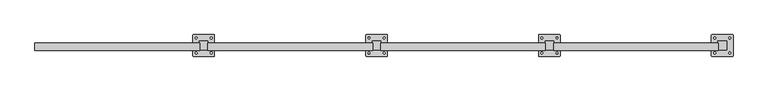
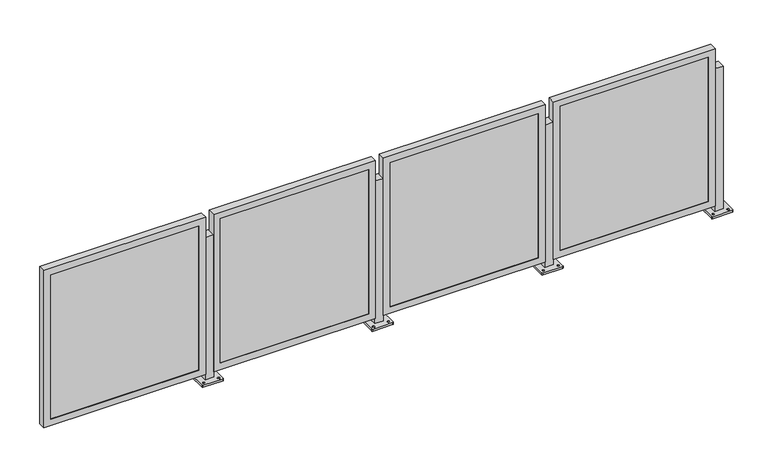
"""IFC4 building model written with IfcOpenShell, lengths in millimetres: railing geometry, Railing - Amico Architectural - Perforated Railing - Bilbao."""

from ifc_helpers import new_model, si_unit, frame, origin, place, context, project, spatial, polyline, circle_curve, outline, extrude, faceted_brep, source, transform, mapped, element, save
from ifc_brep_helpers import plane_surface, cylinder_surface, revolved_surface, advanced_brep


def railing_f1457b38(model_context):
    return source(origin(), model_context, "Body", "SolidModel", [
        advanced_brep(
        [(-3181.6608616, -3820.6813531, 914.4), (-3181.6608616, -3871.4813531, 914.4), (-3130.8608616, -3871.4813531, 914.4), (-3130.8608616, -3820.6813531, 914.4), (-3219.7608618, -3906.4063121, 0.0), (-3219.7608618, -3785.7563942, 0.0), (-3216.5858336, -3782.581366, 0.0), (-3095.9358896, -3782.581366, 0.0), (-3092.7608615, -3785.7563942, 0.0), (-3092.7608615, -3906.4063121, 0.0), (-3095.9358896, -3909.5813403, 0.0), (-3216.5858336, -3909.5813403, 0.0), (-3200.7108492, -3896.0876078, 0.0), (-3200.7108492, -3884.9750953, 0.0), (-3200.7108601, -3807.1876034, 0.0), (-3200.7108601, -3796.0751218, 0.0), (-3111.8108482, -3896.0876063, 0.0), (-3111.8108482, -3884.9750956, 0.0), (-3111.8108591, -3807.1876019, 0.0), (-3111.8108591, -3796.0751221, 0.0), (-3181.6608616, -3820.6813531, 12.7), (-3181.6608616, -3871.4813531, 12.7), (-3130.8608616, -3871.4813531, 12.7), (-3130.8608616, -3820.6813531, 12.7), (-3219.7608618, -3906.4063121, 12.7), (-3216.5858336, -3909.5813403, 12.7), (-3095.9358896, -3909.5813403, 12.7), (-3092.7608615, -3906.4063121, 12.7), (-3092.7608615, -3785.7563942, 12.7), (-3095.9358896, -3782.581366, 12.7), (-3216.5858336, -3782.581366, 12.7), (-3219.7608618, -3785.7563942, 12.7), (-3200.7108492, -3896.0876078, 12.7), (-3200.7108492, -3884.9750953, 12.7), (-3200.7108601, -3807.1876034, 12.7), (-3200.7108601, -3796.0751218, 12.7), (-3111.8108482, -3896.0876063, 12.7), (-3111.8108482, -3884.9750956, 12.7), (-3111.8108591, -3807.1876019, 12.7), (-3111.8108591, -3796.0751221, 12.7)],
        [
            (0, 1),
            (1, 2),
            (2, 3),
            (3, 0),
            (4, 5),
            (5, 6, circle_curve(frame((-3216.5858336, -3785.7563942, 0.0), z_axis=(0.0, 0.0, -1.0), x_axis=(0.0, 1.0, 0.0)), 3.1750282)),
            (6, 7),
            (7, 8, circle_curve(frame((-3095.9358896, -3785.7563942, 0.0), z_axis=(0.0, 0.0, -1.0), x_axis=(0.0, 1.0, 0.0)), 3.1750282)),
            (8, 9),
            (9, 10, circle_curve(frame((-3095.9358896, -3906.4063121, 0.0), z_axis=(0.0, 0.0, -1.0), x_axis=(0.0, 1.0, 0.0)), 3.1750282)),
            (10, 11),
            (11, 4, circle_curve(frame((-3216.5858336, -3906.4063121, 0.0), z_axis=(0.0, 0.0, -1.0), x_axis=(0.0, 1.0, 0.0)), 3.1750282)),
            (12, 13, circle_curve(frame((-3200.7108492, -3890.5313516, 0.0), z_axis=(0.0, 0.0, 1.0), x_axis=(0.0, 1.0, 0.0)), 5.5562562)),
            (13, 12, circle_curve(frame((-3200.7108492, -3890.5313516, 0.0), z_axis=(0.0, 0.0, 1.0), x_axis=(0.0, 1.0, 0.0)), 5.5562562)),
            (14, 15, circle_curve(frame((-3200.7108601, -3801.6313626, 0.0), z_axis=(0.0, 0.0, 1.0), x_axis=(0.0, 1.0, 0.0)), 5.5562408)),
            (15, 14, circle_curve(frame((-3200.7108601, -3801.6313626, 0.0), z_axis=(0.0, 0.0, 1.0), x_axis=(0.0, 1.0, 0.0)), 5.5562408)),
            (16, 17, circle_curve(frame((-3111.8108482, -3890.5313509, 0.0), z_axis=(0.0, 0.0, 1.0), x_axis=(0.0, 1.0, 0.0)), 5.5562553)),
            (17, 16, circle_curve(frame((-3111.8108482, -3890.5313509, 0.0), z_axis=(0.0, 0.0, 1.0), x_axis=(0.0, 1.0, 0.0)), 5.5562553)),
            (18, 19, circle_curve(frame((-3111.8108591, -3801.631362, 0.0), z_axis=(0.0, 0.0, 1.0), x_axis=(0.0, 1.0, 0.0)), 5.5562399)),
            (19, 18, circle_curve(frame((-3111.8108591, -3801.631362, 0.0), z_axis=(0.0, 0.0, 1.0), x_axis=(0.0, 1.0, 0.0)), 5.5562399)),
            (0, 20),
            (20, 21),
            (21, 1),
            (21, 22),
            (22, 2),
            (22, 23),
            (23, 3),
            (23, 20),
            (24, 25, circle_curve(frame((-3216.5858336, -3906.4063121, 12.7), z_axis=(0.0, 0.0, 1.0), x_axis=(0.0, 1.0, 0.0)), 3.1750282)),
            (25, 26),
            (26, 27, circle_curve(frame((-3095.9358896, -3906.4063121, 12.7), z_axis=(0.0, 0.0, 1.0), x_axis=(0.0, 1.0, 0.0)), 3.1750282)),
            (27, 28),
            (28, 29, circle_curve(frame((-3095.9358896, -3785.7563942, 12.7), z_axis=(0.0, 0.0, 1.0), x_axis=(0.0, 1.0, 0.0)), 3.1750282)),
            (29, 30),
            (30, 31, circle_curve(frame((-3216.5858336, -3785.7563942, 12.7), z_axis=(0.0, 0.0, 1.0), x_axis=(0.0, 1.0, 0.0)), 3.1750282)),
            (31, 24),
            (32, 33, circle_curve(frame((-3200.7108492, -3890.5313516, 12.7), z_axis=(0.0, 0.0, -1.0), x_axis=(0.0, 1.0, 0.0)), 5.5562562)),
            (33, 32, circle_curve(frame((-3200.7108492, -3890.5313516, 12.7), z_axis=(0.0, 0.0, -1.0), x_axis=(0.0, 1.0, 0.0)), 5.5562562)),
            (34, 35, circle_curve(frame((-3200.7108601, -3801.6313626, 12.7), z_axis=(0.0, 0.0, -1.0), x_axis=(0.0, 1.0, 0.0)), 5.5562408)),
            (35, 34, circle_curve(frame((-3200.7108601, -3801.6313626, 12.7), z_axis=(0.0, 0.0, -1.0), x_axis=(0.0, 1.0, 0.0)), 5.5562408)),
            (36, 37, circle_curve(frame((-3111.8108482, -3890.5313509, 12.7), z_axis=(0.0, 0.0, -1.0), x_axis=(0.0, 1.0, 0.0)), 5.5562553)),
            (37, 36, circle_curve(frame((-3111.8108482, -3890.5313509, 12.7), z_axis=(0.0, 0.0, -1.0), x_axis=(0.0, 1.0, 0.0)), 5.5562553)),
            (38, 39, circle_curve(frame((-3111.8108591, -3801.631362, 12.7), z_axis=(0.0, 0.0, -1.0), x_axis=(0.0, 1.0, 0.0)), 5.5562399)),
            (39, 38, circle_curve(frame((-3111.8108591, -3801.631362, 12.7), z_axis=(0.0, 0.0, -1.0), x_axis=(0.0, 1.0, 0.0)), 5.5562399)),
            (24, 4),
            (11, 25),
            (10, 26),
            (9, 27),
            (8, 28),
            (7, 29),
            (6, 30),
            (5, 31),
            (32, 12),
            (13, 33),
            (34, 14),
            (15, 35),
            (36, 16),
            (17, 37),
            (38, 18),
            (19, 39),
        ],
        [
            plane_surface(frame((-3181.6608616, -3871.4813531, 914.4), z_axis=(0.0, 0.0, 1.0), x_axis=(0.0, -1.0, 0.0))),
            plane_surface(frame((-3181.6608616, -3871.4813531, 0.0), z_axis=(0.0, 0.0, -1.0), x_axis=(0.0, 1.0, 0.0))),
            plane_surface(frame((-3181.6608616, -3820.6813531, 914.4), z_axis=(-1.0, 0.0, 0.0), x_axis=(0.0, 0.0, -1.0))),
            plane_surface(frame((-3181.6608616, -3871.4813531, 914.4), z_axis=(0.0, -1.0, 0.0), x_axis=(0.0, 0.0, -1.0))),
            plane_surface(frame((-3130.8608616, -3871.4813531, 914.4), z_axis=(1.0, 0.0, 0.0), x_axis=(0.0, 0.0, -1.0))),
            plane_surface(frame((-3130.8608616, -3820.6813531, 914.4), z_axis=(0.0, 1.0, 0.0), x_axis=(0.0, 0.0, -1.0))),
            plane_surface(frame((-3216.5858336, -3903.231284, 12.7), z_axis=(0.0, 0.0, 1.0), x_axis=(-1.0, 0.0, 0.0))),
            cylinder_surface(frame((-3216.5858336, -3906.4063121, 0.0), z_axis=(0.0, 0.0, 1.0), x_axis=(0.0, 1.0, 0.0)), 3.1750282),
            plane_surface(frame((-3216.5858336, -3909.5813403, 12.7), z_axis=(1.1945386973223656e-12, -1.0, 0.0), x_axis=(0.0, 0.0, -1.0))),
            cylinder_surface(frame((-3095.9358896, -3906.4063121, 0.0), z_axis=(0.0, 0.0, 1.0), x_axis=(0.0, 1.0, 0.0)), 3.1750282),
            plane_surface(frame((-3092.7608615, -3906.4063121, 12.7), z_axis=(1.0, 0.0, 0.0), x_axis=(0.0, 0.0, -1.0))),
            cylinder_surface(frame((-3095.9358896, -3785.7563942, 0.0), z_axis=(0.0, 0.0, 1.0), x_axis=(0.0, 1.0, 0.0)), 3.1750282),
            plane_surface(frame((-3095.9358896, -3782.581366, 12.7), z_axis=(-1.1946088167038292e-12, 1.0, 0.0), x_axis=(0.0, 0.0, -1.0))),
            cylinder_surface(frame((-3216.5858336, -3785.7563942, 0.0), z_axis=(0.0, 0.0, 1.0), x_axis=(0.0, 1.0, 0.0)), 3.1750282),
            plane_surface(frame((-3219.7608618, -3785.7563942, 12.7), z_axis=(-1.0, 0.0, 0.0), x_axis=(0.0, 0.0, -1.0))),
            revolved_surface(polyline([(-3200.7108492, -3884.9750954, 0.0), (-3200.7108492, -3884.9750954, 12.7)]), (-3200.7108492, -3890.5313516, 0.0), (0.0, 0.0, -1.0)),
            revolved_surface(polyline([(-3200.7108601, -3796.0751218, 0.0), (-3200.7108601, -3796.0751218, 12.7)]), (-3200.7108601, -3801.6313626, 0.0), (0.0, 0.0, -1.0)),
            revolved_surface(polyline([(-3111.8108482, -3884.9750956, 0.0), (-3111.8108482, -3884.9750956, 12.7)]), (-3111.8108482, -3890.5313509, 0.0), (0.0, 0.0, -1.0)),
            revolved_surface(polyline([(-3111.8108591, -3796.0751221, 0.0), (-3111.8108591, -3796.0751221, 12.7)]), (-3111.8108591, -3801.631362, 0.0), (0.0, 0.0, -1.0)),
        ],
        [
            (0, [[1, 2, 3, 4]]),
            (1, [[5, 6, 7, 8, 9, 10, 11, 12], [13, 14], [15, 16], [17, 18], [19, 20]]),
            (2, [[-1, 21, 22, 23]]),
            (3, [[-2, -23, 24, 25]]),
            (4, [[-3, -25, 26, 27]]),
            (5, [[-4, -27, 28, -21]]),
            (6, [[29, 30, 31, 32, 33, 34, 35, 36], [-22, -28, -26, -24], [37, 38], [39, 40], [41, 42], [43, 44]]),
            (7, [[-29, 45, -12, 46]]),
            (8, [[-30, -46, -11, 47]]),
            (9, [[-31, -47, -10, 48]]),
            (10, [[-32, -48, -9, 49]]),
            (11, [[-33, -49, -8, 50]]),
            (12, [[-34, -50, -7, 51]]),
            (13, [[-35, -51, -6, 52]]),
            (14, [[-36, -52, -5, -45]]),
            (15, [[-37, 53, -14, 54]]),
            (15, [[-38, -54, -13, -53]]),
            (16, [[-39, 55, -16, 56]]),
            (16, [[-40, -56, -15, -55]]),
            (17, [[-41, 57, -18, 58]]),
            (17, [[-42, -58, -17, -57]]),
            (18, [[-43, 59, -20, 60]]),
            (18, [[-44, -60, -19, -59]]),
        ],
    ),
        faceted_brep([(-4148.065315, -3874.2245531, 47.625), (-3179.690315, -3874.2245531, 47.625), (-3179.690315, -3874.2245531, 1044.575), (-4148.065315, -3874.2245531, 1044.575), (-4106.790315, -3874.2245531, 1003.3), (-3220.965315, -3874.2245531, 1003.3), (-3220.965315, -3874.2245531, 88.9), (-4106.790315, -3874.2245531, 88.9), (-4106.790315, -3871.4813531, 1003.3), (-4106.790315, -3871.4813531, 88.9), (-4148.065315, -3830.3512566, 1044.575), (-4148.065315, -3830.3512566, 47.625), (-4144.890315, -3830.3512566, 1041.4), (-4144.890315, -3871.4813531, 1041.4), (-4144.890315, -3871.4813531, 50.8), (-4144.890315, -3830.3512566, 50.8), (-3220.965315, -3871.4813531, 88.9), (-3179.690315, -3830.3512566, 47.625), (-3182.865315, -3871.4813531, 50.8), (-3182.865315, -3830.3512566, 50.8), (-3220.965315, -3871.4813531, 1003.3), (-3179.690315, -3830.3512566, 1044.575), (-3182.865315, -3871.4813531, 1041.4), (-3182.865315, -3830.3512566, 1041.4)], [[[0, 1, 2, 3], [4, 5, 6, 7]], [[8, 4, 7, 9]], [[3, 10, 11, 0]], [[12, 13, 14, 15]], [[9, 7, 6, 16]], [[0, 11, 17, 1]], [[15, 14, 18, 19]], [[16, 6, 5, 20]], [[1, 17, 21, 2]], [[19, 18, 22, 23]], [[20, 5, 4, 8]], [[10, 21, 17, 11], [15, 19, 23, 12]], [[2, 21, 10, 3]], [[13, 22, 18, 14], [9, 16, 20, 8]], [[23, 22, 13, 12]]]),
        extrude(outline(polyline([(-4144.890315, -3861.9563531), (-3182.865315, -3861.9563531), (-3182.865315, -3871.4813531), (-4144.890315, -3871.4813531), (-4144.890315, -3861.9563531)])), frame((0.0, 0.0, 50.8), z_axis=(0.0, 0.0, 1.0), x_axis=(1.0, 0.0, 0.0)), (0.0, 0.0, 1.0), 990.6),
        advanced_brep(
        [(-4197.6608616, -3820.6813531, 914.4), (-4197.6608616, -3871.4813531, 914.4), (-4146.8608616, -3871.4813531, 914.4), (-4146.8608616, -3820.6813531, 914.4), (-4235.7608618, -3906.4063121, 0.0), (-4235.7608618, -3785.7563942, 0.0), (-4232.5858336, -3782.581366, 0.0), (-4111.9358896, -3782.581366, 0.0), (-4108.7608615, -3785.7563942, 0.0), (-4108.7608615, -3906.4063121, 0.0), (-4111.9358896, -3909.5813403, 0.0), (-4232.5858336, -3909.5813403, 0.0), (-4216.7108492, -3896.0876078, 0.0), (-4216.7108492, -3884.9750953, 0.0), (-4216.7108601, -3807.1876034, 0.0), (-4216.7108601, -3796.0751218, 0.0), (-4127.8108482, -3896.0876063, 0.0), (-4127.8108482, -3884.9750956, 0.0), (-4127.8108591, -3807.1876019, 0.0), (-4127.8108591, -3796.0751221, 0.0), (-4197.6608616, -3820.6813531, 12.7), (-4197.6608616, -3871.4813531, 12.7), (-4146.8608616, -3871.4813531, 12.7), (-4146.8608616, -3820.6813531, 12.7), (-4235.7608618, -3906.4063121, 12.7), (-4232.5858336, -3909.5813403, 12.7), (-4111.9358896, -3909.5813403, 12.7), (-4108.7608615, -3906.4063121, 12.7), (-4108.7608615, -3785.7563942, 12.7), (-4111.9358896, -3782.581366, 12.7), (-4232.5858336, -3782.581366, 12.7), (-4235.7608618, -3785.7563942, 12.7), (-4216.7108492, -3896.0876078, 12.7), (-4216.7108492, -3884.9750953, 12.7), (-4216.7108601, -3807.1876034, 12.7), (-4216.7108601, -3796.0751218, 12.7), (-4127.8108482, -3896.0876063, 12.7), (-4127.8108482, -3884.9750956, 12.7), (-4127.8108591, -3807.1876019, 12.7), (-4127.8108591, -3796.0751221, 12.7)],
        [
            (0, 1),
            (1, 2),
            (2, 3),
            (3, 0),
            (4, 5),
            (5, 6, circle_curve(frame((-4232.5858336, -3785.7563942, 0.0), z_axis=(0.0, 0.0, -1.0), x_axis=(0.0, 1.0, 0.0)), 3.1750282)),
            (6, 7),
            (7, 8, circle_curve(frame((-4111.9358896, -3785.7563942, 0.0), z_axis=(0.0, 0.0, -1.0), x_axis=(0.0, 1.0, 0.0)), 3.1750282)),
            (8, 9),
            (9, 10, circle_curve(frame((-4111.9358896, -3906.4063121, 0.0), z_axis=(0.0, 0.0, -1.0), x_axis=(0.0, 1.0, 0.0)), 3.1750282)),
            (10, 11),
            (11, 4, circle_curve(frame((-4232.5858336, -3906.4063121, 0.0), z_axis=(0.0, 0.0, -1.0), x_axis=(0.0, 1.0, 0.0)), 3.1750282)),
            (12, 13, circle_curve(frame((-4216.7108492, -3890.5313516, 0.0), z_axis=(0.0, 0.0, 1.0), x_axis=(0.0, 1.0, 0.0)), 5.5562562)),
            (13, 12, circle_curve(frame((-4216.7108492, -3890.5313516, 0.0), z_axis=(0.0, 0.0, 1.0), x_axis=(0.0, 1.0, 0.0)), 5.5562562)),
            (14, 15, circle_curve(frame((-4216.7108601, -3801.6313626, 0.0), z_axis=(0.0, 0.0, 1.0), x_axis=(0.0, 1.0, 0.0)), 5.5562408)),
            (15, 14, circle_curve(frame((-4216.7108601, -3801.6313626, 0.0), z_axis=(0.0, 0.0, 1.0), x_axis=(0.0, 1.0, 0.0)), 5.5562408)),
            (16, 17, circle_curve(frame((-4127.8108482, -3890.5313509, 0.0), z_axis=(0.0, 0.0, 1.0), x_axis=(0.0, 1.0, 0.0)), 5.5562553)),
            (17, 16, circle_curve(frame((-4127.8108482, -3890.5313509, 0.0), z_axis=(0.0, 0.0, 1.0), x_axis=(0.0, 1.0, 0.0)), 5.5562553)),
            (18, 19, circle_curve(frame((-4127.8108591, -3801.631362, 0.0), z_axis=(0.0, 0.0, 1.0), x_axis=(0.0, 1.0, 0.0)), 5.5562399)),
            (19, 18, circle_curve(frame((-4127.8108591, -3801.631362, 0.0), z_axis=(0.0, 0.0, 1.0), x_axis=(0.0, 1.0, 0.0)), 5.5562399)),
            (0, 20),
            (20, 21),
            (21, 1),
            (21, 22),
            (22, 2),
            (22, 23),
            (23, 3),
            (23, 20),
            (24, 25, circle_curve(frame((-4232.5858336, -3906.4063121, 12.7), z_axis=(0.0, 0.0, 1.0), x_axis=(0.0, 1.0, 0.0)), 3.1750282)),
            (25, 26),
            (26, 27, circle_curve(frame((-4111.9358896, -3906.4063121, 12.7), z_axis=(0.0, 0.0, 1.0), x_axis=(0.0, 1.0, 0.0)), 3.1750282)),
            (27, 28),
            (28, 29, circle_curve(frame((-4111.9358896, -3785.7563942, 12.7), z_axis=(0.0, 0.0, 1.0), x_axis=(0.0, 1.0, 0.0)), 3.1750282)),
            (29, 30),
            (30, 31, circle_curve(frame((-4232.5858336, -3785.7563942, 12.7), z_axis=(0.0, 0.0, 1.0), x_axis=(0.0, 1.0, 0.0)), 3.1750282)),
            (31, 24),
            (32, 33, circle_curve(frame((-4216.7108492, -3890.5313516, 12.7), z_axis=(0.0, 0.0, -1.0), x_axis=(0.0, 1.0, 0.0)), 5.5562562)),
            (33, 32, circle_curve(frame((-4216.7108492, -3890.5313516, 12.7), z_axis=(0.0, 0.0, -1.0), x_axis=(0.0, 1.0, 0.0)), 5.5562562)),
            (34, 35, circle_curve(frame((-4216.7108601, -3801.6313626, 12.7), z_axis=(0.0, 0.0, -1.0), x_axis=(0.0, 1.0, 0.0)), 5.5562408)),
            (35, 34, circle_curve(frame((-4216.7108601, -3801.6313626, 12.7), z_axis=(0.0, 0.0, -1.0), x_axis=(0.0, 1.0, 0.0)), 5.5562408)),
            (36, 37, circle_curve(frame((-4127.8108482, -3890.5313509, 12.7), z_axis=(0.0, 0.0, -1.0), x_axis=(0.0, 1.0, 0.0)), 5.5562553)),
            (37, 36, circle_curve(frame((-4127.8108482, -3890.5313509, 12.7), z_axis=(0.0, 0.0, -1.0), x_axis=(0.0, 1.0, 0.0)), 5.5562553)),
            (38, 39, circle_curve(frame((-4127.8108591, -3801.631362, 12.7), z_axis=(0.0, 0.0, -1.0), x_axis=(0.0, 1.0, 0.0)), 5.5562399)),
            (39, 38, circle_curve(frame((-4127.8108591, -3801.631362, 12.7), z_axis=(0.0, 0.0, -1.0), x_axis=(0.0, 1.0, 0.0)), 5.5562399)),
            (24, 4),
            (11, 25),
            (10, 26),
            (9, 27),
            (8, 28),
            (7, 29),
            (6, 30),
            (5, 31),
            (32, 12),
            (13, 33),
            (34, 14),
            (15, 35),
            (36, 16),
            (17, 37),
            (38, 18),
            (19, 39),
        ],
        [
            plane_surface(frame((-4197.6608616, -3871.4813531, 914.4), z_axis=(0.0, 0.0, 1.0), x_axis=(0.0, -1.0, 0.0))),
            plane_surface(frame((-4197.6608616, -3871.4813531, 0.0), z_axis=(0.0, 0.0, -1.0), x_axis=(0.0, 1.0, 0.0))),
            plane_surface(frame((-4197.6608616, -3820.6813531, 914.4), z_axis=(-1.0, 0.0, 0.0), x_axis=(0.0, 0.0, -1.0))),
            plane_surface(frame((-4197.6608616, -3871.4813531, 914.4), z_axis=(0.0, -1.0, 0.0), x_axis=(0.0, 0.0, -1.0))),
            plane_surface(frame((-4146.8608616, -3871.4813531, 914.4), z_axis=(1.0, 0.0, 0.0), x_axis=(0.0, 0.0, -1.0))),
            plane_surface(frame((-4146.8608616, -3820.6813531, 914.4), z_axis=(0.0, 1.0, 0.0), x_axis=(0.0, 0.0, -1.0))),
            plane_surface(frame((-4232.5858336, -3903.231284, 12.7), z_axis=(0.0, 0.0, 1.0), x_axis=(-1.0, 0.0, 0.0))),
            cylinder_surface(frame((-4232.5858336, -3906.4063121, 0.0), z_axis=(0.0, 0.0, 1.0), x_axis=(0.0, 1.0, 0.0)), 3.1750282),
            plane_surface(frame((-4232.5858336, -3909.5813403, 12.7), z_axis=(1.1945386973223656e-12, -1.0, 0.0), x_axis=(0.0, 0.0, -1.0))),
            cylinder_surface(frame((-4111.9358896, -3906.4063121, 0.0), z_axis=(0.0, 0.0, 1.0), x_axis=(0.0, 1.0, 0.0)), 3.1750282),
            plane_surface(frame((-4108.7608615, -3906.4063121, 12.7), z_axis=(1.0, 0.0, 0.0), x_axis=(0.0, 0.0, -1.0))),
            cylinder_surface(frame((-4111.9358896, -3785.7563942, 0.0), z_axis=(0.0, 0.0, 1.0), x_axis=(0.0, 1.0, 0.0)), 3.1750282),
            plane_surface(frame((-4111.9358896, -3782.581366, 12.7), z_axis=(-1.1946088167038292e-12, 1.0, 0.0), x_axis=(0.0, 0.0, -1.0))),
            cylinder_surface(frame((-4232.5858336, -3785.7563942, 0.0), z_axis=(0.0, 0.0, 1.0), x_axis=(0.0, 1.0, 0.0)), 3.1750282),
            plane_surface(frame((-4235.7608618, -3785.7563942, 12.7), z_axis=(-1.0, 0.0, 0.0), x_axis=(0.0, 0.0, -1.0))),
            revolved_surface(polyline([(-4216.7108492, -3884.9750954, 0.0), (-4216.7108492, -3884.9750954, 12.7)]), (-4216.7108492, -3890.5313516, 0.0), (0.0, 0.0, -1.0)),
            revolved_surface(polyline([(-4216.7108601, -3796.0751218, 0.0), (-4216.7108601, -3796.0751218, 12.7)]), (-4216.7108601, -3801.6313626, 0.0), (0.0, 0.0, -1.0)),
            revolved_surface(polyline([(-4127.8108482, -3884.9750956, 0.0), (-4127.8108482, -3884.9750956, 12.7)]), (-4127.8108482, -3890.5313509, 0.0), (0.0, 0.0, -1.0)),
            revolved_surface(polyline([(-4127.8108591, -3796.0751221, 0.0), (-4127.8108591, -3796.0751221, 12.7)]), (-4127.8108591, -3801.631362, 0.0), (0.0, 0.0, -1.0)),
        ],
        [
            (0, [[1, 2, 3, 4]]),
            (1, [[5, 6, 7, 8, 9, 10, 11, 12], [13, 14], [15, 16], [17, 18], [19, 20]]),
            (2, [[-1, 21, 22, 23]]),
            (3, [[-2, -23, 24, 25]]),
            (4, [[-3, -25, 26, 27]]),
            (5, [[-4, -27, 28, -21]]),
            (6, [[29, 30, 31, 32, 33, 34, 35, 36], [-22, -28, -26, -24], [37, 38], [39, 40], [41, 42], [43, 44]]),
            (7, [[-29, 45, -12, 46]]),
            (8, [[-30, -46, -11, 47]]),
            (9, [[-31, -47, -10, 48]]),
            (10, [[-32, -48, -9, 49]]),
            (11, [[-33, -49, -8, 50]]),
            (12, [[-34, -50, -7, 51]]),
            (13, [[-35, -51, -6, 52]]),
            (14, [[-36, -52, -5, -45]]),
            (15, [[-37, 53, -14, 54]]),
            (15, [[-38, -54, -13, -53]]),
            (16, [[-39, 55, -16, 56]]),
            (16, [[-40, -56, -15, -55]]),
            (17, [[-41, 57, -18, 58]]),
            (17, [[-42, -58, -17, -57]]),
            (18, [[-43, 59, -20, 60]]),
            (18, [[-44, -60, -19, -59]]),
        ],
    ),
        faceted_brep([(-5164.065315, -3874.2245531, 47.625), (-4195.690315, -3874.2245531, 47.625), (-4195.690315, -3874.2245531, 1044.575), (-5164.065315, -3874.2245531, 1044.575), (-5122.790315, -3874.2245531, 1003.3), (-4236.965315, -3874.2245531, 1003.3), (-4236.965315, -3874.2245531, 88.9), (-5122.790315, -3874.2245531, 88.9), (-5122.790315, -3871.4813531, 1003.3), (-5122.790315, -3871.4813531, 88.9), (-5164.065315, -3830.3512566, 1044.575), (-5164.065315, -3830.3512566, 47.625), (-5160.890315, -3830.3512566, 1041.4), (-5160.890315, -3871.4813531, 1041.4), (-5160.890315, -3871.4813531, 50.8), (-5160.890315, -3830.3512566, 50.8), (-4236.965315, -3871.4813531, 88.9), (-4195.690315, -3830.3512566, 47.625), (-4198.865315, -3871.4813531, 50.8), (-4198.865315, -3830.3512566, 50.8), (-4236.965315, -3871.4813531, 1003.3), (-4195.690315, -3830.3512566, 1044.575), (-4198.865315, -3871.4813531, 1041.4), (-4198.865315, -3830.3512566, 1041.4)], [[[0, 1, 2, 3], [4, 5, 6, 7]], [[8, 4, 7, 9]], [[3, 10, 11, 0]], [[12, 13, 14, 15]], [[9, 7, 6, 16]], [[0, 11, 17, 1]], [[15, 14, 18, 19]], [[16, 6, 5, 20]], [[1, 17, 21, 2]], [[19, 18, 22, 23]], [[20, 5, 4, 8]], [[10, 21, 17, 11], [15, 19, 23, 12]], [[2, 21, 10, 3]], [[13, 22, 18, 14], [9, 16, 20, 8]], [[23, 22, 13, 12]]]),
        extrude(outline(polyline([(-5160.890315, -3861.9563531), (-4198.865315, -3861.9563531), (-4198.865315, -3871.4813531), (-5160.890315, -3871.4813531), (-5160.890315, -3861.9563531)])), frame((0.0, 0.0, 50.8), z_axis=(0.0, 0.0, 1.0), x_axis=(1.0, 0.0, 0.0)), (0.0, 0.0, 1.0), 990.6),
        advanced_brep(
        [(-5213.6608616, -3820.6813531, 914.4), (-5213.6608616, -3871.4813531, 914.4), (-5162.8608616, -3871.4813531, 914.4), (-5162.8608616, -3820.6813531, 914.4), (-5251.7608618, -3906.4063121, 0.0), (-5251.7608618, -3785.7563942, 0.0), (-5248.5858336, -3782.581366, 0.0), (-5127.9358896, -3782.581366, 0.0), (-5124.7608615, -3785.7563942, 0.0), (-5124.7608615, -3906.4063121, 0.0), (-5127.9358896, -3909.5813403, 0.0), (-5248.5858336, -3909.5813403, 0.0), (-5232.7108492, -3896.0876078, 0.0), (-5232.7108492, -3884.9750953, 0.0), (-5232.7108601, -3807.1876034, 0.0), (-5232.7108601, -3796.0751218, 0.0), (-5143.8108482, -3896.0876063, 0.0), (-5143.8108482, -3884.9750956, 0.0), (-5143.8108591, -3807.1876019, 0.0), (-5143.8108591, -3796.0751221, 0.0), (-5213.6608616, -3820.6813531, 12.7), (-5213.6608616, -3871.4813531, 12.7), (-5162.8608616, -3871.4813531, 12.7), (-5162.8608616, -3820.6813531, 12.7), (-5251.7608618, -3906.4063121, 12.7), (-5248.5858336, -3909.5813403, 12.7), (-5127.9358896, -3909.5813403, 12.7), (-5124.7608615, -3906.4063121, 12.7), (-5124.7608615, -3785.7563942, 12.7), (-5127.9358896, -3782.581366, 12.7), (-5248.5858336, -3782.581366, 12.7), (-5251.7608618, -3785.7563942, 12.7), (-5232.7108492, -3896.0876078, 12.7), (-5232.7108492, -3884.9750953, 12.7), (-5232.7108601, -3807.1876034, 12.7), (-5232.7108601, -3796.0751218, 12.7), (-5143.8108482, -3896.0876063, 12.7), (-5143.8108482, -3884.9750956, 12.7), (-5143.8108591, -3807.1876019, 12.7), (-5143.8108591, -3796.0751221, 12.7)],
        [
            (0, 1),
            (1, 2),
            (2, 3),
            (3, 0),
            (4, 5),
            (5, 6, circle_curve(frame((-5248.5858336, -3785.7563942, 0.0), z_axis=(0.0, 0.0, -1.0), x_axis=(0.0, 1.0, 0.0)), 3.1750282)),
            (6, 7),
            (7, 8, circle_curve(frame((-5127.9358896, -3785.7563942, 0.0), z_axis=(0.0, 0.0, -1.0), x_axis=(0.0, 1.0, 0.0)), 3.1750282)),
            (8, 9),
            (9, 10, circle_curve(frame((-5127.9358896, -3906.4063121, 0.0), z_axis=(0.0, 0.0, -1.0), x_axis=(0.0, 1.0, 0.0)), 3.1750282)),
            (10, 11),
            (11, 4, circle_curve(frame((-5248.5858336, -3906.4063121, 0.0), z_axis=(0.0, 0.0, -1.0), x_axis=(0.0, 1.0, 0.0)), 3.1750282)),
            (12, 13, circle_curve(frame((-5232.7108492, -3890.5313516, 0.0), z_axis=(0.0, 0.0, 1.0), x_axis=(0.0, 1.0, 0.0)), 5.5562562)),
            (13, 12, circle_curve(frame((-5232.7108492, -3890.5313516, 0.0), z_axis=(0.0, 0.0, 1.0), x_axis=(0.0, 1.0, 0.0)), 5.5562562)),
            (14, 15, circle_curve(frame((-5232.7108601, -3801.6313626, 0.0), z_axis=(0.0, 0.0, 1.0), x_axis=(0.0, 1.0, 0.0)), 5.5562408)),
            (15, 14, circle_curve(frame((-5232.7108601, -3801.6313626, 0.0), z_axis=(0.0, 0.0, 1.0), x_axis=(0.0, 1.0, 0.0)), 5.5562408)),
            (16, 17, circle_curve(frame((-5143.8108482, -3890.5313509, 0.0), z_axis=(0.0, 0.0, 1.0), x_axis=(0.0, 1.0, 0.0)), 5.5562553)),
            (17, 16, circle_curve(frame((-5143.8108482, -3890.5313509, 0.0), z_axis=(0.0, 0.0, 1.0), x_axis=(0.0, 1.0, 0.0)), 5.5562553)),
            (18, 19, circle_curve(frame((-5143.8108591, -3801.631362, 0.0), z_axis=(0.0, 0.0, 1.0), x_axis=(0.0, 1.0, 0.0)), 5.5562399)),
            (19, 18, circle_curve(frame((-5143.8108591, -3801.631362, 0.0), z_axis=(0.0, 0.0, 1.0), x_axis=(0.0, 1.0, 0.0)), 5.5562399)),
            (0, 20),
            (20, 21),
            (21, 1),
            (21, 22),
            (22, 2),
            (22, 23),
            (23, 3),
            (23, 20),
            (24, 25, circle_curve(frame((-5248.5858336, -3906.4063121, 12.7), z_axis=(0.0, 0.0, 1.0), x_axis=(0.0, 1.0, 0.0)), 3.1750282)),
            (25, 26),
            (26, 27, circle_curve(frame((-5127.9358896, -3906.4063121, 12.7), z_axis=(0.0, 0.0, 1.0), x_axis=(0.0, 1.0, 0.0)), 3.1750282)),
            (27, 28),
            (28, 29, circle_curve(frame((-5127.9358896, -3785.7563942, 12.7), z_axis=(0.0, 0.0, 1.0), x_axis=(0.0, 1.0, 0.0)), 3.1750282)),
            (29, 30),
            (30, 31, circle_curve(frame((-5248.5858336, -3785.7563942, 12.7), z_axis=(0.0, 0.0, 1.0), x_axis=(0.0, 1.0, 0.0)), 3.1750282)),
            (31, 24),
            (32, 33, circle_curve(frame((-5232.7108492, -3890.5313516, 12.7), z_axis=(0.0, 0.0, -1.0), x_axis=(0.0, 1.0, 0.0)), 5.5562562)),
            (33, 32, circle_curve(frame((-5232.7108492, -3890.5313516, 12.7), z_axis=(0.0, 0.0, -1.0), x_axis=(0.0, 1.0, 0.0)), 5.5562562)),
            (34, 35, circle_curve(frame((-5232.7108601, -3801.6313626, 12.7), z_axis=(0.0, 0.0, -1.0), x_axis=(0.0, 1.0, 0.0)), 5.5562408)),
            (35, 34, circle_curve(frame((-5232.7108601, -3801.6313626, 12.7), z_axis=(0.0, 0.0, -1.0), x_axis=(0.0, 1.0, 0.0)), 5.5562408)),
            (36, 37, circle_curve(frame((-5143.8108482, -3890.5313509, 12.7), z_axis=(0.0, 0.0, -1.0), x_axis=(0.0, 1.0, 0.0)), 5.5562553)),
            (37, 36, circle_curve(frame((-5143.8108482, -3890.5313509, 12.7), z_axis=(0.0, 0.0, -1.0), x_axis=(0.0, 1.0, 0.0)), 5.5562553)),
            (38, 39, circle_curve(frame((-5143.8108591, -3801.631362, 12.7), z_axis=(0.0, 0.0, -1.0), x_axis=(0.0, 1.0, 0.0)), 5.5562399)),
            (39, 38, circle_curve(frame((-5143.8108591, -3801.631362, 12.7), z_axis=(0.0, 0.0, -1.0), x_axis=(0.0, 1.0, 0.0)), 5.5562399)),
            (24, 4),
            (11, 25),
            (10, 26),
            (9, 27),
            (8, 28),
            (7, 29),
            (6, 30),
            (5, 31),
            (32, 12),
            (13, 33),
            (34, 14),
            (15, 35),
            (36, 16),
            (17, 37),
            (38, 18),
            (19, 39),
        ],
        [
            plane_surface(frame((-5213.6608616, -3871.4813531, 914.4), z_axis=(0.0, 0.0, 1.0), x_axis=(0.0, -1.0, 0.0))),
            plane_surface(frame((-5213.6608616, -3871.4813531, 0.0), z_axis=(0.0, 0.0, -1.0), x_axis=(0.0, 1.0, 0.0))),
            plane_surface(frame((-5213.6608616, -3820.6813531, 914.4), z_axis=(-1.0, 0.0, 0.0), x_axis=(0.0, 0.0, -1.0))),
            plane_surface(frame((-5213.6608616, -3871.4813531, 914.4), z_axis=(0.0, -1.0, 0.0), x_axis=(0.0, 0.0, -1.0))),
            plane_surface(frame((-5162.8608616, -3871.4813531, 914.4), z_axis=(1.0, 0.0, 0.0), x_axis=(0.0, 0.0, -1.0))),
            plane_surface(frame((-5162.8608616, -3820.6813531, 914.4), z_axis=(0.0, 1.0, 0.0), x_axis=(0.0, 0.0, -1.0))),
            plane_surface(frame((-5248.5858336, -3903.231284, 12.7), z_axis=(0.0, 0.0, 1.0), x_axis=(-1.0, 0.0, 0.0))),
            cylinder_surface(frame((-5248.5858336, -3906.4063121, 0.0), z_axis=(0.0, 0.0, 1.0), x_axis=(0.0, 1.0, 0.0)), 3.1750282),
            plane_surface(frame((-5248.5858336, -3909.5813403, 12.7), z_axis=(1.1945386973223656e-12, -1.0, 0.0), x_axis=(0.0, 0.0, -1.0))),
            cylinder_surface(frame((-5127.9358896, -3906.4063121, 0.0), z_axis=(0.0, 0.0, 1.0), x_axis=(0.0, 1.0, 0.0)), 3.1750282),
            plane_surface(frame((-5124.7608615, -3906.4063121, 12.7), z_axis=(1.0, 0.0, 0.0), x_axis=(0.0, 0.0, -1.0))),
            cylinder_surface(frame((-5127.9358896, -3785.7563942, 0.0), z_axis=(0.0, 0.0, 1.0), x_axis=(0.0, 1.0, 0.0)), 3.1750282),
            plane_surface(frame((-5127.9358896, -3782.581366, 12.7), z_axis=(-1.1946088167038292e-12, 1.0, 0.0), x_axis=(0.0, 0.0, -1.0))),
            cylinder_surface(frame((-5248.5858336, -3785.7563942, 0.0), z_axis=(0.0, 0.0, 1.0), x_axis=(0.0, 1.0, 0.0)), 3.1750282),
            plane_surface(frame((-5251.7608618, -3785.7563942, 12.7), z_axis=(-1.0, 0.0, 0.0), x_axis=(0.0, 0.0, -1.0))),
            revolved_surface(polyline([(-5232.7108492, -3884.9750954, 0.0), (-5232.7108492, -3884.9750954, 12.7)]), (-5232.7108492, -3890.5313516, 0.0), (0.0, 0.0, -1.0)),
            revolved_surface(polyline([(-5232.7108601, -3796.0751218, 0.0), (-5232.7108601, -3796.0751218, 12.7)]), (-5232.7108601, -3801.6313626, 0.0), (0.0, 0.0, -1.0)),
            revolved_surface(polyline([(-5143.8108482, -3884.9750956, 0.0), (-5143.8108482, -3884.9750956, 12.7)]), (-5143.8108482, -3890.5313509, 0.0), (0.0, 0.0, -1.0)),
            revolved_surface(polyline([(-5143.8108591, -3796.0751221, 0.0), (-5143.8108591, -3796.0751221, 12.7)]), (-5143.8108591, -3801.631362, 0.0), (0.0, 0.0, -1.0)),
        ],
        [
            (0, [[1, 2, 3, 4]]),
            (1, [[5, 6, 7, 8, 9, 10, 11, 12], [13, 14], [15, 16], [17, 18], [19, 20]]),
            (2, [[-1, 21, 22, 23]]),
            (3, [[-2, -23, 24, 25]]),
            (4, [[-3, -25, 26, 27]]),
            (5, [[-4, -27, 28, -21]]),
            (6, [[29, 30, 31, 32, 33, 34, 35, 36], [-22, -28, -26, -24], [37, 38], [39, 40], [41, 42], [43, 44]]),
            (7, [[-29, 45, -12, 46]]),
            (8, [[-30, -46, -11, 47]]),
            (9, [[-31, -47, -10, 48]]),
            (10, [[-32, -48, -9, 49]]),
            (11, [[-33, -49, -8, 50]]),
            (12, [[-34, -50, -7, 51]]),
            (13, [[-35, -51, -6, 52]]),
            (14, [[-36, -52, -5, -45]]),
            (15, [[-37, 53, -14, 54]]),
            (15, [[-38, -54, -13, -53]]),
            (16, [[-39, 55, -16, 56]]),
            (16, [[-40, -56, -15, -55]]),
            (17, [[-41, 57, -18, 58]]),
            (17, [[-42, -58, -17, -57]]),
            (18, [[-43, 59, -20, 60]]),
            (18, [[-44, -60, -19, -59]]),
        ],
    ),
        faceted_brep([(-6180.065315, -3874.2245531, 47.625), (-5211.690315, -3874.2245531, 47.625), (-5211.690315, -3874.2245531, 1044.575), (-6180.065315, -3874.2245531, 1044.575), (-6138.790315, -3874.2245531, 1003.3), (-5252.965315, -3874.2245531, 1003.3), (-5252.965315, -3874.2245531, 88.9), (-6138.790315, -3874.2245531, 88.9), (-6138.790315, -3871.4813531, 1003.3), (-6138.790315, -3871.4813531, 88.9), (-6180.065315, -3830.3512566, 1044.575), (-6180.065315, -3830.3512566, 47.625), (-6176.890315, -3830.3512566, 1041.4), (-6176.890315, -3871.4813531, 1041.4), (-6176.890315, -3871.4813531, 50.8), (-6176.890315, -3830.3512566, 50.8), (-5252.965315, -3871.4813531, 88.9), (-5211.690315, -3830.3512566, 47.625), (-5214.865315, -3871.4813531, 50.8), (-5214.865315, -3830.3512566, 50.8), (-5252.965315, -3871.4813531, 1003.3), (-5211.690315, -3830.3512566, 1044.575), (-5214.865315, -3871.4813531, 1041.4), (-5214.865315, -3830.3512566, 1041.4)], [[[0, 1, 2, 3], [4, 5, 6, 7]], [[8, 4, 7, 9]], [[3, 10, 11, 0]], [[12, 13, 14, 15]], [[9, 7, 6, 16]], [[0, 11, 17, 1]], [[15, 14, 18, 19]], [[16, 6, 5, 20]], [[1, 17, 21, 2]], [[19, 18, 22, 23]], [[20, 5, 4, 8]], [[10, 21, 17, 11], [15, 19, 23, 12]], [[2, 21, 10, 3]], [[13, 22, 18, 14], [9, 16, 20, 8]], [[23, 22, 13, 12]]]),
        extrude(outline(polyline([(-6176.890315, -3861.9563531), (-5214.865315, -3861.9563531), (-5214.865315, -3871.4813531), (-6176.890315, -3871.4813531), (-6176.890315, -3861.9563531)])), frame((0.0, 0.0, 50.8), z_axis=(0.0, 0.0, 1.0), x_axis=(1.0, 0.0, 0.0)), (0.0, 0.0, 1.0), 990.6),
        advanced_brep(
        [(-6229.6608616, -3820.6813531, 914.4), (-6229.6608616, -3871.4813531, 914.4), (-6178.8608616, -3871.4813531, 914.4), (-6178.8608616, -3820.6813531, 914.4), (-6267.7608618, -3906.4063121, 0.0), (-6267.7608618, -3785.7563942, 0.0), (-6264.5858336, -3782.581366, 0.0), (-6143.9358896, -3782.581366, 0.0), (-6140.7608615, -3785.7563942, 0.0), (-6140.7608615, -3906.4063121, 0.0), (-6143.9358896, -3909.5813403, 0.0), (-6264.5858336, -3909.5813403, 0.0), (-6248.7108492, -3896.0876078, 0.0), (-6248.7108492, -3884.9750953, 0.0), (-6248.7108601, -3807.1876034, 0.0), (-6248.7108601, -3796.0751218, 0.0), (-6159.8108482, -3896.0876063, 0.0), (-6159.8108482, -3884.9750956, 0.0), (-6159.8108591, -3807.1876019, 0.0), (-6159.8108591, -3796.0751221, 0.0), (-6229.6608616, -3820.6813531, 12.7), (-6229.6608616, -3871.4813531, 12.7), (-6178.8608616, -3871.4813531, 12.7), (-6178.8608616, -3820.6813531, 12.7), (-6267.7608618, -3906.4063121, 12.7), (-6264.5858336, -3909.5813403, 12.7), (-6143.9358896, -3909.5813403, 12.7), (-6140.7608615, -3906.4063121, 12.7), (-6140.7608615, -3785.7563942, 12.7), (-6143.9358896, -3782.581366, 12.7), (-6264.5858336, -3782.581366, 12.7), (-6267.7608618, -3785.7563942, 12.7), (-6248.7108492, -3896.0876078, 12.7), (-6248.7108492, -3884.9750953, 12.7), (-6248.7108601, -3807.1876034, 12.7), (-6248.7108601, -3796.0751218, 12.7), (-6159.8108482, -3896.0876063, 12.7), (-6159.8108482, -3884.9750956, 12.7), (-6159.8108591, -3807.1876019, 12.7), (-6159.8108591, -3796.0751221, 12.7)],
        [
            (0, 1),
            (1, 2),
            (2, 3),
            (3, 0),
            (4, 5),
            (5, 6, circle_curve(frame((-6264.5858336, -3785.7563942, 0.0), z_axis=(0.0, 0.0, -1.0), x_axis=(0.0, 1.0, 0.0)), 3.1750282)),
            (6, 7),
            (7, 8, circle_curve(frame((-6143.9358896, -3785.7563942, 0.0), z_axis=(0.0, 0.0, -1.0), x_axis=(0.0, 1.0, 0.0)), 3.1750282)),
            (8, 9),
            (9, 10, circle_curve(frame((-6143.9358896, -3906.4063121, 0.0), z_axis=(0.0, 0.0, -1.0), x_axis=(0.0, 1.0, 0.0)), 3.1750282)),
            (10, 11),
            (11, 4, circle_curve(frame((-6264.5858336, -3906.4063121, 0.0), z_axis=(0.0, 0.0, -1.0), x_axis=(0.0, 1.0, 0.0)), 3.1750282)),
            (12, 13, circle_curve(frame((-6248.7108492, -3890.5313516, 0.0), z_axis=(0.0, 0.0, 1.0), x_axis=(0.0, 1.0, 0.0)), 5.5562562)),
            (13, 12, circle_curve(frame((-6248.7108492, -3890.5313516, 0.0), z_axis=(0.0, 0.0, 1.0), x_axis=(0.0, 1.0, 0.0)), 5.5562562)),
            (14, 15, circle_curve(frame((-6248.7108601, -3801.6313626, 0.0), z_axis=(0.0, 0.0, 1.0), x_axis=(0.0, 1.0, 0.0)), 5.5562408)),
            (15, 14, circle_curve(frame((-6248.7108601, -3801.6313626, 0.0), z_axis=(0.0, 0.0, 1.0), x_axis=(0.0, 1.0, 0.0)), 5.5562408)),
            (16, 17, circle_curve(frame((-6159.8108482, -3890.5313509, 0.0), z_axis=(0.0, 0.0, 1.0), x_axis=(0.0, 1.0, 0.0)), 5.5562553)),
            (17, 16, circle_curve(frame((-6159.8108482, -3890.5313509, 0.0), z_axis=(0.0, 0.0, 1.0), x_axis=(0.0, 1.0, 0.0)), 5.5562553)),
            (18, 19, circle_curve(frame((-6159.8108591, -3801.631362, 0.0), z_axis=(0.0, 0.0, 1.0), x_axis=(0.0, 1.0, 0.0)), 5.5562399)),
            (19, 18, circle_curve(frame((-6159.8108591, -3801.631362, 0.0), z_axis=(0.0, 0.0, 1.0), x_axis=(0.0, 1.0, 0.0)), 5.5562399)),
            (0, 20),
            (20, 21),
            (21, 1),
            (21, 22),
            (22, 2),
            (22, 23),
            (23, 3),
            (23, 20),
            (24, 25, circle_curve(frame((-6264.5858336, -3906.4063121, 12.7), z_axis=(0.0, 0.0, 1.0), x_axis=(0.0, 1.0, 0.0)), 3.1750282)),
            (25, 26),
            (26, 27, circle_curve(frame((-6143.9358896, -3906.4063121, 12.7), z_axis=(0.0, 0.0, 1.0), x_axis=(0.0, 1.0, 0.0)), 3.1750282)),
            (27, 28),
            (28, 29, circle_curve(frame((-6143.9358896, -3785.7563942, 12.7), z_axis=(0.0, 0.0, 1.0), x_axis=(0.0, 1.0, 0.0)), 3.1750282)),
            (29, 30),
            (30, 31, circle_curve(frame((-6264.5858336, -3785.7563942, 12.7), z_axis=(0.0, 0.0, 1.0), x_axis=(0.0, 1.0, 0.0)), 3.1750282)),
            (31, 24),
            (32, 33, circle_curve(frame((-6248.7108492, -3890.5313516, 12.7), z_axis=(0.0, 0.0, -1.0), x_axis=(0.0, 1.0, 0.0)), 5.5562562)),
            (33, 32, circle_curve(frame((-6248.7108492, -3890.5313516, 12.7), z_axis=(0.0, 0.0, -1.0), x_axis=(0.0, 1.0, 0.0)), 5.5562562)),
            (34, 35, circle_curve(frame((-6248.7108601, -3801.6313626, 12.7), z_axis=(0.0, 0.0, -1.0), x_axis=(0.0, 1.0, 0.0)), 5.5562408)),
            (35, 34, circle_curve(frame((-6248.7108601, -3801.6313626, 12.7), z_axis=(0.0, 0.0, -1.0), x_axis=(0.0, 1.0, 0.0)), 5.5562408)),
            (36, 37, circle_curve(frame((-6159.8108482, -3890.5313509, 12.7), z_axis=(0.0, 0.0, -1.0), x_axis=(0.0, 1.0, 0.0)), 5.5562553)),
            (37, 36, circle_curve(frame((-6159.8108482, -3890.5313509, 12.7), z_axis=(0.0, 0.0, -1.0), x_axis=(0.0, 1.0, 0.0)), 5.5562553)),
            (38, 39, circle_curve(frame((-6159.8108591, -3801.631362, 12.7), z_axis=(0.0, 0.0, -1.0), x_axis=(0.0, 1.0, 0.0)), 5.5562399)),
            (39, 38, circle_curve(frame((-6159.8108591, -3801.631362, 12.7), z_axis=(0.0, 0.0, -1.0), x_axis=(0.0, 1.0, 0.0)), 5.5562399)),
            (24, 4),
            (11, 25),
            (10, 26),
            (9, 27),
            (8, 28),
            (7, 29),
            (6, 30),
            (5, 31),
            (32, 12),
            (13, 33),
            (34, 14),
            (15, 35),
            (36, 16),
            (17, 37),
            (38, 18),
            (19, 39),
        ],
        [
            plane_surface(frame((-6229.6608616, -3871.4813531, 914.4), z_axis=(0.0, 0.0, 1.0), x_axis=(0.0, -1.0, 0.0))),
            plane_surface(frame((-6229.6608616, -3871.4813531, 0.0), z_axis=(0.0, 0.0, -1.0), x_axis=(0.0, 1.0, 0.0))),
            plane_surface(frame((-6229.6608616, -3820.6813531, 914.4), z_axis=(-1.0, 0.0, 0.0), x_axis=(0.0, 0.0, -1.0))),
            plane_surface(frame((-6229.6608616, -3871.4813531, 914.4), z_axis=(0.0, -1.0, 0.0), x_axis=(0.0, 0.0, -1.0))),
            plane_surface(frame((-6178.8608616, -3871.4813531, 914.4), z_axis=(1.0, 0.0, 0.0), x_axis=(0.0, 0.0, -1.0))),
            plane_surface(frame((-6178.8608616, -3820.6813531, 914.4), z_axis=(0.0, 1.0, 0.0), x_axis=(0.0, 0.0, -1.0))),
            plane_surface(frame((-6264.5858336, -3903.231284, 12.7), z_axis=(0.0, 0.0, 1.0), x_axis=(-1.0, 0.0, 0.0))),
            cylinder_surface(frame((-6264.5858336, -3906.4063121, 0.0), z_axis=(0.0, 0.0, 1.0), x_axis=(0.0, 1.0, 0.0)), 3.1750282),
            plane_surface(frame((-6264.5858336, -3909.5813403, 12.7), z_axis=(1.1945386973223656e-12, -1.0, 0.0), x_axis=(0.0, 0.0, -1.0))),
            cylinder_surface(frame((-6143.9358896, -3906.4063121, 0.0), z_axis=(0.0, 0.0, 1.0), x_axis=(0.0, 1.0, 0.0)), 3.1750282),
            plane_surface(frame((-6140.7608615, -3906.4063121, 12.7), z_axis=(1.0, 0.0, 0.0), x_axis=(0.0, 0.0, -1.0))),
            cylinder_surface(frame((-6143.9358896, -3785.7563942, 0.0), z_axis=(0.0, 0.0, 1.0), x_axis=(0.0, 1.0, 0.0)), 3.1750282),
            plane_surface(frame((-6143.9358896, -3782.581366, 12.7), z_axis=(-1.1946088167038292e-12, 1.0, 0.0), x_axis=(0.0, 0.0, -1.0))),
            cylinder_surface(frame((-6264.5858336, -3785.7563942, 0.0), z_axis=(0.0, 0.0, 1.0), x_axis=(0.0, 1.0, 0.0)), 3.1750282),
            plane_surface(frame((-6267.7608618, -3785.7563942, 12.7), z_axis=(-1.0, 0.0, 0.0), x_axis=(0.0, 0.0, -1.0))),
            revolved_surface(polyline([(-6248.7108492, -3884.9750954, 0.0), (-6248.7108492, -3884.9750954, 12.7)]), (-6248.7108492, -3890.5313516, 0.0), (0.0, 0.0, -1.0)),
            revolved_surface(polyline([(-6248.7108601, -3796.0751218, 0.0), (-6248.7108601, -3796.0751218, 12.7)]), (-6248.7108601, -3801.6313626, 0.0), (0.0, 0.0, -1.0)),
            revolved_surface(polyline([(-6159.8108482, -3884.9750956, 0.0), (-6159.8108482, -3884.9750956, 12.7)]), (-6159.8108482, -3890.5313509, 0.0), (0.0, 0.0, -1.0)),
            revolved_surface(polyline([(-6159.8108591, -3796.0751221, 0.0), (-6159.8108591, -3796.0751221, 12.7)]), (-6159.8108591, -3801.631362, 0.0), (0.0, 0.0, -1.0)),
        ],
        [
            (0, [[1, 2, 3, 4]]),
            (1, [[5, 6, 7, 8, 9, 10, 11, 12], [13, 14], [15, 16], [17, 18], [19, 20]]),
            (2, [[-1, 21, 22, 23]]),
            (3, [[-2, -23, 24, 25]]),
            (4, [[-3, -25, 26, 27]]),
            (5, [[-4, -27, 28, -21]]),
            (6, [[29, 30, 31, 32, 33, 34, 35, 36], [-22, -28, -26, -24], [37, 38], [39, 40], [41, 42], [43, 44]]),
            (7, [[-29, 45, -12, 46]]),
            (8, [[-30, -46, -11, 47]]),
            (9, [[-31, -47, -10, 48]]),
            (10, [[-32, -48, -9, 49]]),
            (11, [[-33, -49, -8, 50]]),
            (12, [[-34, -50, -7, 51]]),
            (13, [[-35, -51, -6, 52]]),
            (14, [[-36, -52, -5, -45]]),
            (15, [[-37, 53, -14, 54]]),
            (15, [[-38, -54, -13, -53]]),
            (16, [[-39, 55, -16, 56]]),
            (16, [[-40, -56, -15, -55]]),
            (17, [[-41, 57, -18, 58]]),
            (17, [[-42, -58, -17, -57]]),
            (18, [[-43, 59, -20, 60]]),
            (18, [[-44, -60, -19, -59]]),
        ],
    ),
        faceted_brep([(-7196.065315, -3874.2245531, 47.625), (-6227.690315, -3874.2245531, 47.625), (-6227.690315, -3874.2245531, 1044.575), (-7196.065315, -3874.2245531, 1044.575), (-7154.790315, -3874.2245531, 1003.3), (-6268.965315, -3874.2245531, 1003.3), (-6268.965315, -3874.2245531, 88.9), (-7154.790315, -3874.2245531, 88.9), (-7154.790315, -3871.4813531, 1003.3), (-7154.790315, -3871.4813531, 88.9), (-7196.065315, -3830.3512566, 1044.575), (-7196.065315, -3830.3512566, 47.625), (-7192.890315, -3830.3512566, 1041.4), (-7192.890315, -3871.4813531, 1041.4), (-7192.890315, -3871.4813531, 50.8), (-7192.890315, -3830.3512566, 50.8), (-6268.965315, -3871.4813531, 88.9), (-6227.690315, -3830.3512566, 47.625), (-6230.865315, -3871.4813531, 50.8), (-6230.865315, -3830.3512566, 50.8), (-6268.965315, -3871.4813531, 1003.3), (-6227.690315, -3830.3512566, 1044.575), (-6230.865315, -3871.4813531, 1041.4), (-6230.865315, -3830.3512566, 1041.4)], [[[0, 1, 2, 3], [4, 5, 6, 7]], [[8, 4, 7, 9]], [[3, 10, 11, 0]], [[12, 13, 14, 15]], [[9, 7, 6, 16]], [[0, 11, 17, 1]], [[15, 14, 18, 19]], [[16, 6, 5, 20]], [[1, 17, 21, 2]], [[19, 18, 22, 23]], [[20, 5, 4, 8]], [[10, 21, 17, 11], [15, 19, 23, 12]], [[2, 21, 10, 3]], [[13, 22, 18, 14], [9, 16, 20, 8]], [[23, 22, 13, 12]]]),
        extrude(outline(polyline([(-7192.890315, -3861.9563531), (-6230.865315, -3861.9563531), (-6230.865315, -3871.4813531), (-7192.890315, -3871.4813531), (-7192.890315, -3861.9563531)])), frame((0.0, 0.0, 50.8), z_axis=(0.0, 0.0, 1.0), x_axis=(1.0, 0.0, 0.0)), (0.0, 0.0, 1.0), 990.6),
    ])


if __name__ == "__main__":
    model = new_model("IFC4")
    model_context = context("Model", 3, world=origin())
    ifc_project = project(units=[si_unit("LENGTHUNIT", "METRE", prefix="MILLI")], contexts=[model_context])
    site = spatial("IfcSite", under=ifc_project)
    building = spatial("IfcBuilding", under=site)
    placement = place(None, origin())
    railing_shape = railing_f1457b38(model_context)
    element("IfcRailing", 1, ObjectType="Railing - Amico Architectural - Perforated Railing - Bilbao", at=placement, inside=building, context=model_context, shape_type="MappedRepresentation", body=[
        mapped(railing_shape, transform((0.0, 0.0, 0.0), x_axis=(1.0, 0.0, 0.0), y_axis=(0.0, 1.0, 0.0), z_axis=(0.0, 0.0, 1.0))),
    ])
    save(model, "model.ifc")
